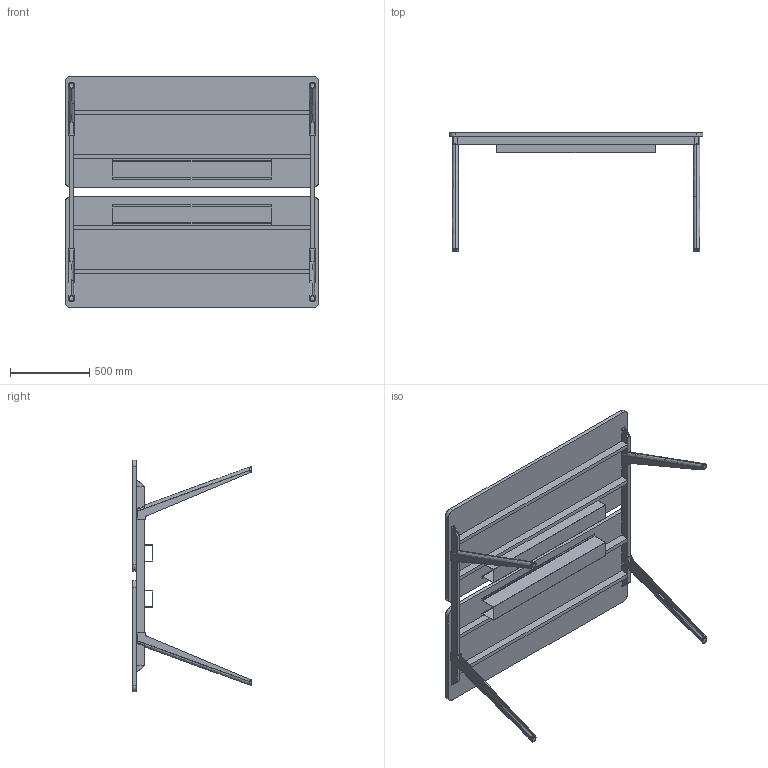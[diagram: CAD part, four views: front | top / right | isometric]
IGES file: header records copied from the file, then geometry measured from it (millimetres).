
Start section: SolidWorks IGES file using analytic representation for surfaces
Global section: file name: C:\Users\simone.cerana\OneDrive - Gruppo Tecno\Desktop\CHINA\DISEGNI DI SERIE\ASSIEMI LISTINO\HORIZON LISTINO\FULL OPTIONAL\HO1614FO.IGS; native system: SolidWorks 2024; preprocessor: SolidWorks 2024; author: simone.cerana; date: 260512.153918; units: millimetre
Bounding box: 1600 x 750.58 x 1460 mm (x, y, z)
Surface area: 7550903 mm2 (no closed solid volume)
Topology: 0 solids, 0 shells, 364 faces, 4416 edges, 4416 vertices
Faces by surface type: bspline 256, revolution 108
